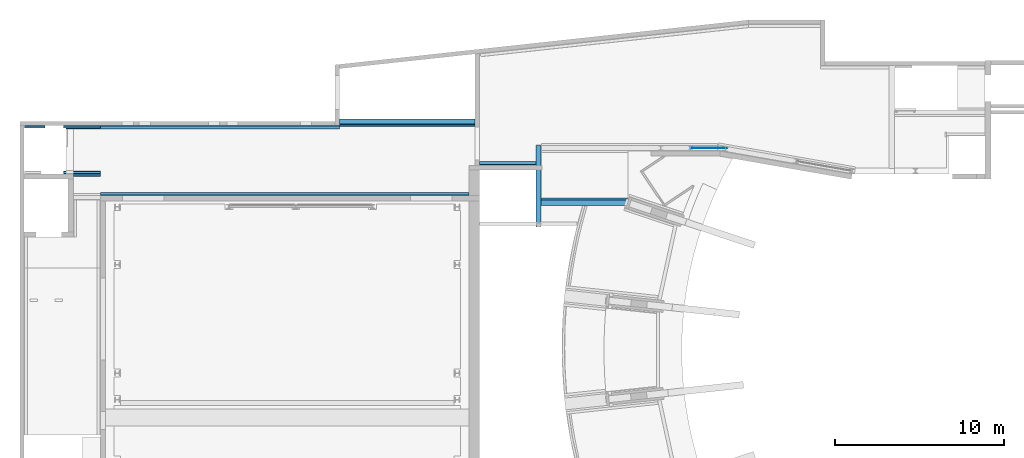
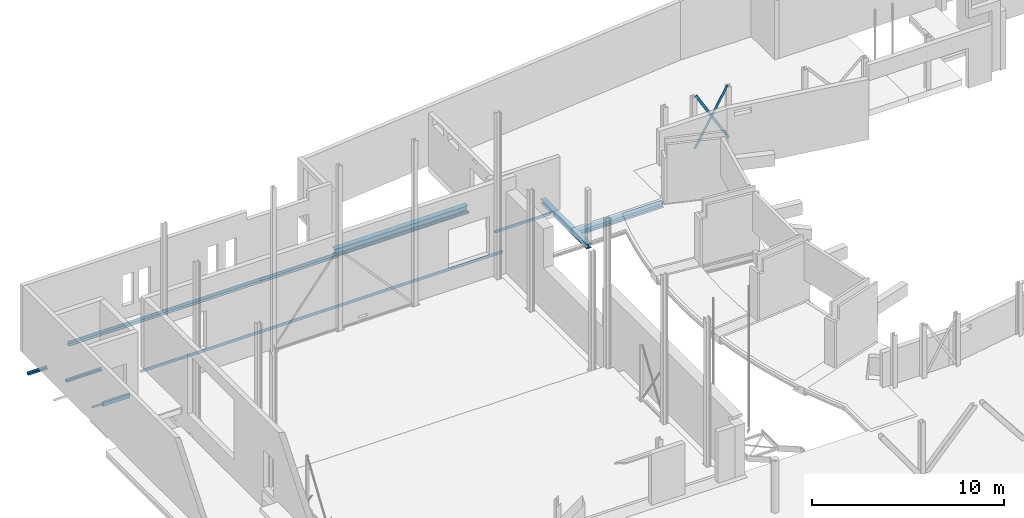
# One storey, part 18 of 37: 13 beams.
"""IFC2X3 building model written with IfcOpenShell, lengths in millimetres."""

from ifc_helpers import new_model, entity, si_unit, converted_unit, derived_unit, direction, frame, frame_2d, origin, place, context, subcontext, project, spatial, polyline, circle_curve, parameter, trimmed, segment, composite_curve, rectangle, outline, extrude, source, transform, mapped, material, material_list, type_object, type_shapes, element, save


model = new_model("IFC2X3")

# Units and contexts
model_context = context("Model", 3, precision=0.01, world=origin(), true_north=direction((6.12303176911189e-17, 1.0)))
body_context = subcontext(model_context, "Body", "Model", "MODEL_VIEW")
ifc_project = project(units=[si_unit("LENGTHUNIT", "METRE", prefix="MILLI"), si_unit("AREAUNIT", "SQUARE_METRE", prefix="MILLI"), si_unit("VOLUMEUNIT", "CUBIC_METRE"), converted_unit("PLANEANGLEUNIT", "DEGREE", entity("IfcRatioMeasure", 0.0174532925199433), si_unit("PLANEANGLEUNIT", "RADIAN"), dimensions=[0, 0, 0, 0, 0, 0, 0]), si_unit("MASSUNIT", "GRAM", prefix="KILO"), derived_unit("MASSDENSITYUNIT", [(si_unit("MASSUNIT", "GRAM", prefix="KILO"), 1), (si_unit("LENGTHUNIT", "METRE"), -3)]), derived_unit("MOMENTOFINERTIAUNIT", [(si_unit("LENGTHUNIT", "METRE"), 4)]), si_unit("TIMEUNIT", "SECOND"), si_unit("FREQUENCYUNIT", "HERTZ"), si_unit("THERMODYNAMICTEMPERATUREUNIT", "DEGREE_CELSIUS"), derived_unit("THERMALTRANSMITTANCEUNIT", [(si_unit("MASSUNIT", "GRAM", prefix="KILO"), 1), (si_unit("THERMODYNAMICTEMPERATUREUNIT", "KELVIN"), -1), (si_unit("TIMEUNIT", "SECOND"), -3)]), derived_unit("VOLUMETRICFLOWRATEUNIT", [(si_unit("LENGTHUNIT", "METRE"), 3), (si_unit("TIMEUNIT", "SECOND"), -1)]), si_unit("ELECTRICCURRENTUNIT", "AMPERE"), si_unit("ELECTRICVOLTAGEUNIT", "VOLT"), si_unit("POWERUNIT", "WATT"), si_unit("FORCEUNIT", "NEWTON", prefix="KILO"), si_unit("ILLUMINANCEUNIT", "LUX"), si_unit("LUMINOUSFLUXUNIT", "LUMEN"), si_unit("LUMINOUSINTENSITYUNIT", "CANDELA"), derived_unit("USERDEFINED", [(si_unit("MASSUNIT", "GRAM", prefix="KILO"), -1), (si_unit("LENGTHUNIT", "METRE"), -2), (si_unit("TIMEUNIT", "SECOND"), 3), (si_unit("LUMINOUSFLUXUNIT", "LUMEN"), 1)]), derived_unit("LINEARVELOCITYUNIT", [(si_unit("LENGTHUNIT", "METRE"), 1), (si_unit("TIMEUNIT", "SECOND"), -1)]), si_unit("PRESSUREUNIT", "PASCAL"), derived_unit("USERDEFINED", [(si_unit("LENGTHUNIT", "METRE"), -2), (si_unit("MASSUNIT", "GRAM", prefix="KILO"), 1), (si_unit("TIMEUNIT", "SECOND"), -2)]), derived_unit("LINEARFORCEUNIT", [(si_unit("MASSUNIT", "GRAM", prefix="KILO"), 1), (si_unit("LENGTHUNIT", "METRE"), 1), (si_unit("TIMEUNIT", "SECOND"), -2), (si_unit("LENGTHUNIT", "METRE"), -1)]), derived_unit("PLANARFORCEUNIT", [(si_unit("MASSUNIT", "GRAM", prefix="KILO"), 1), (si_unit("LENGTHUNIT", "METRE"), 1), (si_unit("TIMEUNIT", "SECOND"), -2), (si_unit("LENGTHUNIT", "METRE"), -2)])], contexts=[model_context])

# Site, building, storey
site_placement = place(None, origin())
site = spatial("IfcSite", under=ifc_project, at=site_placement, Name="Theater aan de Parade", CompositionType="ELEMENT")
building_placement = place(site_placement, origin())
building = spatial("IfcBuilding", under=site, at=building_placement, Name="Theater aan de Parade", CompositionType="ELEMENT")
storey_placement = place(building_placement, frame((0.0, 0.0, 5020.0)))
storey = spatial("IfcBuildingStorey", under=building, at=storey_placement, Name="01 eerste verdieping", CompositionType="ELEMENT", Elevation=5020.0)

# Beams
ifc_material_1 = material(Name="00_PBT_MAT_staal_S355")
beam_type_1 = type_object("IfcBeamType", Name="28_PBT_SF_staal_H-profiel (void):S355_HE300B", PredefinedType="NOTDEFINED")
beam_1_placement = place(storey_placement, frame((40963.8581275, 39725.0, 0.0), z_axis=(0.0, 0.0, 1.0), x_axis=(0.0, 1.0, 0.0)))
element("IfcBeam", 1, at=beam_1_placement, inside=storey, type_object=beam_type_1, material=ifc_material_1, Name="28_PBT_SF_staal_H-profiel (void):S355_HE300B", ObjectType="28_PBT_SF_staal_H-profiel (void):S355_HE300B", context=body_context, shape_type="SweptSolid", body=[
    extrude(outline(composite_curve([segment(polyline([(131.0, -150.0), (150.0, -150.0)]), True, "CONTINUOUS"), segment(polyline([(150.0, -150.0), (150.0, 150.0)]), True, "CONTINUOUS"), segment(polyline([(150.0, 150.0), (131.0, 150.0)]), True, "CONTINUOUS"), segment(polyline([(131.0, 150.0), (131.0, 32.5000000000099)]), True, "CONTINUOUS"), segment(trimmed(circle_curve(frame_2d((104.0, 32.5000000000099), x_axis=(1.0, 0.0)), 26.9999999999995), [parameter(270.0)], [parameter(0.0)], True, "PARAMETER"), False, "CONTINUOUS"), segment(polyline([(104.0, 5.50000000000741), (-104.0, 5.50000000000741)]), True, "CONTINUOUS"), segment(trimmed(circle_curve(frame_2d((-104.0, 32.5000000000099), x_axis=(0.0, -1.0)), 26.9999999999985), [parameter(269.999999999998)], [parameter(0.0)], True, "PARAMETER"), False, "CONTINUOUS"), segment(polyline([(-131.0, 32.5000000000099), (-131.0, 150.0)]), True, "CONTINUOUS"), segment(polyline([(-131.0, 150.0), (-150.0, 150.0)]), True, "CONTINUOUS"), segment(polyline([(-150.0, 150.0), (-150.0, -150.0)]), True, "CONTINUOUS"), segment(polyline([(-150.0, -150.0), (-131.0, -150.0)]), True, "CONTINUOUS"), segment(polyline([(-131.0, -150.0), (-131.0, -32.4999999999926)]), True, "CONTINUOUS"), segment(trimmed(circle_curve(frame_2d((-104.0, -32.4999999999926), x_axis=(-1.0, 0.0)), 26.9999999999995), [parameter(269.999999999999)], [parameter(0.0)], True, "PARAMETER"), False, "CONTINUOUS"), segment(polyline([(-104.0, -5.49999999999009), (104.0, -5.49999999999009)]), True, "CONTINUOUS"), segment(trimmed(circle_curve(frame_2d((104.0, -32.4999999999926), x_axis=(0.0, 1.0)), 26.9999999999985), [parameter(269.999999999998)], [parameter(0.0)], True, "PARAMETER"), False, "CONTINUOUS"), segment(polyline([(131.0, -32.4999999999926), (131.0, -150.0)]), True, "CONTINUOUS")], self_intersect=False)), frame((0.0, 0.0, -310.0), z_axis=(1.0, 0.0, 0.0), x_axis=(0.0, 0.0, -1.0)), (0.0, 0.0, 1.0), 4820.00000559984),
])
beam_type_2 = type_object("IfcBeamType", Name="28_PBT_SF_staal_L-profiel:S355_L150x150x15", PredefinedType="NOTDEFINED")
beam_2_placement = place(storey_placement, frame((10574.1125537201, 45680.4999999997, 0.0)))
element("IfcBeam", 2, at=beam_2_placement, inside=storey, type_object=beam_type_2, material=ifc_material_1, Name="28_PBT_SF_staal_L-profiel:S355_L150x150x15", ObjectType="28_PBT_SF_staal_L-profiel:S355_L150x150x15", context=body_context, shape_type="SweptSolid", body=[
    extrude(outline(composite_curve([segment(polyline([(49.6666666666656, -93.3333333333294), (56.6666666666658, -93.3333333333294)]), True, "CONTINUOUS"), segment(polyline([(56.6666666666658, -93.3333333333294), (56.6666666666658, 56.6666666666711)]), True, "CONTINUOUS"), segment(polyline([(56.6666666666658, 56.6666666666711), (-93.3333333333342, 56.6666666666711)]), True, "CONTINUOUS"), segment(polyline([(-93.3333333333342, 56.6666666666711), (-93.3333333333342, 49.6666666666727)]), True, "CONTINUOUS"), segment(trimmed(circle_curve(frame_2d((-85.3333333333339, 49.6666666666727), x_axis=(-1.0, 0.0)), 7.99999999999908), [parameter(0.0)], [parameter(90.0000000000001)], True, "PARAMETER"), True, "CONTINUOUS"), segment(polyline([(-85.3333333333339, 41.6666666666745), (25.6666666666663, 41.6666666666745)]), True, "CONTINUOUS"), segment(trimmed(circle_curve(frame_2d((25.6666666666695, 25.6666666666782), x_axis=(0.0, 1.0)), 15.9999999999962), [parameter(269.999999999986)], [parameter(0.0)], True, "PARAMETER"), False, "CONTINUOUS"), segment(polyline([(41.6666666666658, 25.6666666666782), (41.6666666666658, -85.3333333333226)]), True, "CONTINUOUS"), segment(trimmed(circle_curve(frame_2d((49.6666666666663, -85.3333333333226), x_axis=(-1.0, 0.0)), 7.99999999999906), [parameter(0.0)], [parameter(90.0000000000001)], True, "PARAMETER"), True, "CONTINUOUS")], self_intersect=False)), frame((0.0, -14.1666666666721, -1398.33333333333), z_axis=(1.0, 0.0, 0.0), x_axis=(0.0, 0.0, -1.0)), (0.0, 0.0, 1.0), 1205.21531551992),
])
beam_3_placement = place(storey_placement, frame((12879.3368776, 45680.4999999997, 0.0)))
element("IfcBeam", 3, at=beam_3_placement, inside=storey, type_object=beam_type_2, material=ifc_material_1, Name="28_PBT_SF_staal_L-profiel:S355_L150x150x15", ObjectType="28_PBT_SF_staal_L-profiel:S355_L150x150x15", context=body_context, shape_type="SweptSolid", body=[
    extrude(outline(composite_curve([segment(polyline([(49.6666666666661, -93.3333333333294), (56.666666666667, -93.3333333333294)]), True, "CONTINUOUS"), segment(polyline([(56.666666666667, -93.3333333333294), (56.666666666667, 56.6666666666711)]), True, "CONTINUOUS"), segment(polyline([(56.6666666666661, 56.6666666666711), (-93.3333333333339, 56.6666666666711)]), True, "CONTINUOUS"), segment(polyline([(-93.3333333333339, 56.6666666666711), (-93.3333333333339, 49.6666666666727)]), True, "CONTINUOUS"), segment(trimmed(circle_curve(frame_2d((-85.3333333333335, 49.6666666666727), x_axis=(-1.0, 0.0)), 7.99999999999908), [parameter(0.0)], [parameter(90.0000000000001)], True, "PARAMETER"), True, "CONTINUOUS"), segment(polyline([(-85.3333333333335, 41.6666666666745), (25.6666666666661, 41.6666666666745)]), True, "CONTINUOUS"), segment(trimmed(circle_curve(frame_2d((25.6666666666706, 25.6666666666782), x_axis=(0.0, 1.0)), 15.9999999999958), [parameter(269.999999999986)], [parameter(0.0)], True, "PARAMETER"), False, "CONTINUOUS"), segment(polyline([(41.6666666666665, 25.6666666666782), (41.6666666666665, -85.3333333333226)]), True, "CONTINUOUS"), segment(trimmed(circle_curve(frame_2d((49.6666666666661, -85.3333333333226), x_axis=(-1.0, 0.0)), 7.99999999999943), [parameter(0.0)], [parameter(90.0000000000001)], True, "PARAMETER"), True, "CONTINUOUS")], self_intersect=False)), frame((0.0, -14.1666666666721, -2653.33333333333), z_axis=(1.0, 0.0, 0.0), x_axis=(0.0, 0.0, -1.0)), (0.0, 0.0, 1.0), 2174.54308929),
])
beam_4_placement = place(storey_placement, frame((12879.3368776, 42912.5000000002, 0.0)))
element("IfcBeam", 4, at=beam_4_placement, inside=storey, type_object=beam_type_2, material=ifc_material_1, Name="28_PBT_SF_staal_L-profiel:S355_L150x150x15", ObjectType="28_PBT_SF_staal_L-profiel:S355_L150x150x15", context=body_context, shape_type="SweptSolid", body=[
    extrude(outline(composite_curve([segment(polyline([(-93.3333333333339, -56.6666666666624), (56.6666666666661, -56.6666666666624)]), True, "CONTINUOUS"), segment(polyline([(56.666666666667, -56.6666666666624), (56.666666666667, 93.3333333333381)]), True, "CONTINUOUS"), segment(polyline([(56.666666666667, 93.3333333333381), (49.6666666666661, 93.3333333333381)]), True, "CONTINUOUS"), segment(trimmed(circle_curve(frame_2d((49.6666666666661, 85.3333333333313), x_axis=(0.0, 1.0)), 7.99999999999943), [parameter(0.0)], [parameter(90.0000000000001)], True, "PARAMETER"), True, "CONTINUOUS"), segment(polyline([(41.6666666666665, 85.3333333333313), (41.6666666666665, -25.6666666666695)]), True, "CONTINUOUS"), segment(trimmed(circle_curve(frame_2d((25.6666666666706, -25.6666666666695), x_axis=(1.0, 0.0)), 15.9999999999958), [parameter(269.999999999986)], [parameter(0.0)], True, "PARAMETER"), False, "CONTINUOUS"), segment(polyline([(25.6666666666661, -41.6666666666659), (-85.3333333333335, -41.6666666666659)]), True, "CONTINUOUS"), segment(trimmed(circle_curve(frame_2d((-85.3333333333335, -49.666666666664), x_axis=(0.0, 1.0)), 7.99999999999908), [parameter(0.0)], [parameter(90.0000000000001)], True, "PARAMETER"), True, "CONTINUOUS"), segment(polyline([(-93.3333333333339, -49.666666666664), (-93.3333333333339, -56.6666666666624)]), True, "CONTINUOUS")], self_intersect=False)), frame((0.0, 14.1666666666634, -2653.33333333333), z_axis=(1.0, 0.0, 0.0), x_axis=(0.0, 0.0, -1.0)), (0.0, 0.0, 1.0), 2174.54308929),
])
beam_type_3 = type_object("IfcBeamType", Name="28_PBT_SF_staal_L-profiel:S355_L200x200x20", PredefinedType="NOTDEFINED")
beam_5_placement = place(storey_placement, frame((15053.8570025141, 41630.1083270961, 0.0)))
element("IfcBeam", 5, at=beam_5_placement, inside=storey, type_object=beam_type_3, material=ifc_material_1, Name="28_PBT_SF_staal_L-profiel:S355_L200x200x20", ObjectType="28_PBT_SF_staal_L-profiel:S355_L200x200x20", context=body_context, shape_type="SweptSolid", body=[
    extrude(outline(composite_curve([segment(polyline([(-124.444444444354, -75.5555555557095), (75.5555555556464, -75.5555555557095)]), True, "CONTINUOUS"), segment(polyline([(75.5555555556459, -75.555555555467), (75.5555555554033, 124.444444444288)]), True, "CONTINUOUS"), segment(polyline([(75.5555555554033, 124.444444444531), (64.5555555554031, 124.444444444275)]), True, "CONTINUOUS"), segment(trimmed(circle_curve(frame_2d((64.5555555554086, 115.44444444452), x_axis=(0.0, 1.0)), 8.99999999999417), [parameter(0.0)], [parameter(90.000000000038)], True, "PARAMETER"), True, "CONTINUOUS"), segment(polyline([(55.5555555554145, 115.444444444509), (55.5555555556, -37.5555555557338)]), True, "CONTINUOUS"), segment(trimmed(circle_curve(frame_2d((37.5555555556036, -37.555555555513), x_axis=(1.0, 0.0)), 17.9999999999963), [parameter(269.999999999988)], [parameter(0.0)], True, "PARAMETER"), False, "CONTINUOUS"), segment(polyline([(37.5555555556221, -55.5555555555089), (-115.444444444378, -55.5555555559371)]), True, "CONTINUOUS"), segment(trimmed(circle_curve(frame_2d((-115.444444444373, -64.5555555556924), x_axis=(0.0, 1.0)), 8.99999999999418), [parameter(0.0)], [parameter(90.000000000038)], True, "PARAMETER"), True, "CONTINUOUS"), segment(polyline([(-124.444444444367, -64.5555555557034), (-124.444444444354, -75.5555555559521)]), True, "CONTINUOUS")], self_intersect=False)), frame((0.0, 18.7555555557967, -349.444444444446), z_axis=(1.0, 0.0, 0.0), x_axis=(0.0, 0.0, -1.0)), (0.0, 0.0, 1.0), 21800.0011275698),
])
beam_6_placement = place(storey_placement, frame((13009.3291773, 45666.1999999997, 0.0)))
element("IfcBeam", 6, at=beam_6_placement, inside=storey, type_object=beam_type_3, material=ifc_material_1, Name="28_PBT_SF_staal_L-profiel:S355_L200x200x20", ObjectType="28_PBT_SF_staal_L-profiel:S355_L200x200x20", context=body_context, shape_type="SweptSolid", body=[
    extrude(outline(composite_curve([segment(polyline([(64.5555555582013, -124.444444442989), (75.5555555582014, -124.444444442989)]), True, "CONTINUOUS"), segment(polyline([(75.5555555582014, -124.444444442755), (75.5555555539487, 75.5555555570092)]), True, "CONTINUOUS"), segment(polyline([(75.5555555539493, 75.5555555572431), (-124.444444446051, 75.5555555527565)]), True, "CONTINUOUS"), segment(polyline([(-124.444444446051, 75.5555555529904), (-124.444444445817, 64.5555555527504)]), True, "CONTINUOUS"), segment(trimmed(circle_curve(frame_2d((-115.444444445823, 64.5555555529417), x_axis=(-1.0, 0.0)), 8.99999999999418), [parameter(0.0)], [parameter(90.000000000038)], True, "PARAMETER"), True, "CONTINUOUS"), segment(polyline([(-115.444444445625, 55.5555555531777), (37.5555555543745, 55.5555555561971)]), True, "CONTINUOUS"), segment(trimmed(circle_curve(frame_2d((37.5555555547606, 37.5555555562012), x_axis=(0.0, 1.0)), 17.9999999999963), [parameter(269.999999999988)], [parameter(0.0)], True, "PARAMETER"), False, "CONTINUOUS"), segment(polyline([(55.555555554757, 37.5555555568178), (55.5555555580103, -115.444444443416)]), True, "CONTINUOUS"), segment(trimmed(circle_curve(frame_2d((64.5555555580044, -115.444444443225), x_axis=(-1.0, 0.0)), 8.99999999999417), [parameter(0.0)], [parameter(90.000000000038)], True, "PARAMETER"), True, "CONTINUOUS")], self_intersect=False)), frame((0.0, -18.7555555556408, -349.444444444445), z_axis=(1.0, 0.0, 0.0), x_axis=(0.0, 0.0, -1.0)), (0.0, 0.0, 1.0), 16179.568389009),
])
beam_7_placement = place(storey_placement, frame((40793.8581275, 43456.8000000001, 0.0), z_axis=(0.0, 0.0, 1.0), x_axis=(-1.0, 0.0, 0.0)))
element("IfcBeam", 7, at=beam_7_placement, inside=storey, type_object=beam_type_3, material=ifc_material_1, Name="28_PBT_SF_staal_L-profiel:S355_L200x200x20", ObjectType="28_PBT_SF_staal_L-profiel:S355_L200x200x20", context=body_context, shape_type="SweptSolid", body=[
    extrude(outline(composite_curve([segment(polyline([(64.5555555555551, -124.444444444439), (75.5555555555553, -124.444444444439)]), True, "CONTINUOUS"), segment(polyline([(75.5555555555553, -124.444444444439), (75.5555555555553, 75.5555555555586)]), True, "CONTINUOUS"), segment(polyline([(75.5555555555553, 75.5555555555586), (-124.444444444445, 75.5555555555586)]), True, "CONTINUOUS"), segment(polyline([(-124.444444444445, 75.5555555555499), (-124.444444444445, 64.5555555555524)]), True, "CONTINUOUS"), segment(trimmed(circle_curve(frame_2d((-115.44444444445, 64.5555555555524), x_axis=(-1.0, 0.0)), 8.99999999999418), [parameter(0.0)], [parameter(90.000000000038)], True, "PARAMETER"), True, "CONTINUOUS"), segment(polyline([(-115.444444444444, 55.5555555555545), (37.5555555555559, 55.5555555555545)]), True, "CONTINUOUS"), segment(trimmed(circle_curve(frame_2d((37.5555555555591, 37.5555555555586), x_axis=(0.0, 1.0)), 17.9999999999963), [parameter(269.999999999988)], [parameter(0.0)], True, "PARAMETER"), False, "CONTINUOUS"), segment(polyline([(55.5555555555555, 37.5555555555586), (55.5555555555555, -115.444444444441)]), True, "CONTINUOUS"), segment(trimmed(circle_curve(frame_2d((64.5555555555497, -115.444444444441), x_axis=(-1.0, 0.0)), 8.99999999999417), [parameter(0.0)], [parameter(90.000000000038)], True, "PARAMETER"), True, "CONTINUOUS")], self_intersect=False)), frame((0.0, -18.7555555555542, -409.444444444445), z_axis=(1.0, 0.0, 0.0), x_axis=(0.0, 0.0, -1.0)), (0.0, 0.0, 1.0), 3339.99999741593),
])
ifc_material_2 = material(Name="00_PBT_MAT_staal_S235")
beam_type_4 = type_object("IfcBeamType", Name="28_PBT_SF_staal_koker:S235_K80x120x6.3", PredefinedType="NOTDEFINED")
beam_8_placement = place(storey_placement, frame((29188.897566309, 45675.0, 0.0)))
element("IfcBeam", 8, at=beam_8_placement, inside=storey, type_object=beam_type_4, material=ifc_material_2, Name="28_PBT_SF_staal_koker:S235_K80x120x6.3", ObjectType="28_PBT_SF_staal_koker:S235_K80x120x6.3", context=body_context, shape_type="SweptSolid", body=[
    extrude(outline(composite_curve([segment(polyline([(-30.5499999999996, -60.0), (30.5500000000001, -60.0)]), True, "CONTINUOUS"), segment(trimmed(circle_curve(frame_2d((30.5500000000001, -50.5500000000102), x_axis=(0.0, 1.0)), 9.45), [parameter(180.0)], [parameter(270.0)], True, "PARAMETER"), True, "CONTINUOUS"), segment(polyline([(40.0, -50.5500000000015), (40.0, 50.5500000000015)]), True, "CONTINUOUS"), segment(trimmed(circle_curve(frame_2d((30.5500000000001, 50.5499999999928), x_axis=(0.0, 1.0)), 9.45), [parameter(270.0)], [parameter(360.0)], True, "PARAMETER"), True, "CONTINUOUS"), segment(polyline([(30.5500000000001, 60.0), (-30.5499999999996, 60.0)]), True, "CONTINUOUS"), segment(trimmed(circle_curve(frame_2d((-30.5499999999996, 50.5499999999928), x_axis=(0.0, 1.0)), 9.45), [parameter(0.0)], [parameter(90.0000000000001)], True, "PARAMETER"), True, "CONTINUOUS"), segment(polyline([(-40.0, 50.5500000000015), (-40.0, -50.5500000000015)]), True, "CONTINUOUS"), segment(trimmed(circle_curve(frame_2d((-30.5499999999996, -50.5500000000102), x_axis=(0.0, 1.0)), 9.45), [parameter(90.0)], [parameter(180.0)], True, "PARAMETER"), True, "CONTINUOUS")], self_intersect=False), holes=[composite_curve([segment(polyline([(33.7000000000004, 47.3999999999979), (33.7000000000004, -47.3999999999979)]), True, "CONTINUOUS"), segment(trimmed(circle_curve(frame_2d((27.4000000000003, -47.4000000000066), x_axis=(0.0, 1.0)), 6.3), [parameter(180.0)], [parameter(270.0)], True, "PARAMETER"), False, "CONTINUOUS"), segment(polyline([(27.4000000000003, -53.6999999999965), (-27.3999999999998, -53.6999999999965)]), True, "CONTINUOUS"), segment(trimmed(circle_curve(frame_2d((-27.3999999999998, -47.4000000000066), x_axis=(0.0, 1.0)), 6.3), [parameter(90.0)], [parameter(180.0)], True, "PARAMETER"), False, "CONTINUOUS"), segment(polyline([(-33.6999999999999, -47.3999999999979), (-33.6999999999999, 47.3999999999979)]), True, "CONTINUOUS"), segment(trimmed(circle_curve(frame_2d((-27.3999999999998, 47.3999999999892), x_axis=(0.0, 1.0)), 6.3), [parameter(4.07110999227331e-13)], [parameter(90.0000000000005)], True, "PARAMETER"), False, "CONTINUOUS"), segment(polyline([(-27.3999999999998, 53.6999999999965), (27.4000000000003, 53.6999999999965)]), True, "CONTINUOUS"), segment(trimmed(circle_curve(frame_2d((27.4000000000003, 47.3999999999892), x_axis=(0.0, 1.0)), 6.3), [parameter(270.0)], [parameter(360.0)], True, "PARAMETER"), False, "CONTINUOUS")], self_intersect=False)]), frame((0.0, 60.0, -445.0), z_axis=(1.0, 0.0, 0.0), x_axis=(0.0, 0.0, 1.0)), (0.0, 0.0, 1.0), 8014.96056377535),
])
ifc_material_3 = material(Name="00_PBT_MAT_staal")
beam_type_5 = type_object("IfcBeamType", Name="28_PBT_SF_staal_strip:strip 10x150", PredefinedType="NOTDEFINED")
beam_9_placement = place(storey_placement, frame((49939.9175333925, 44395.0, -236.146651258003), z_axis=(0.862038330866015, 0.0, -0.50684308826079), x_axis=(0.50684308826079, 0.0, 0.862038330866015)))
element("IfcBeam", 9, at=beam_9_placement, inside=storey, type_object=beam_type_5, material=ifc_material_3, Name="28_PBT_SF_staal_strip:strip 10x150", ObjectType="28_PBT_SF_staal_strip:strip 10x150", context=body_context, shape_type="SweptSolid", body=[
    extrude(rectangle(XDim=150.000000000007, YDim=9.99999999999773, at=frame_2d((-1.35003119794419e-13, 0.0), x_axis=(1.0, 0.0))), frame((147.581027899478, 0.0, 0.0), z_axis=(1.0, 0.0, 0.0), x_axis=(0.0, 0.0, -1.0)), (0.0, 0.0, 1.0), 3902.19871328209),
])
beam_10_placement = place(storey_placement, frame((52131.5537725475, 44395.0, -236.146651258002), z_axis=(0.862038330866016, 0.0, 0.506843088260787), x_axis=(-0.506843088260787, 0.0, 0.862038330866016)))
element("IfcBeam", 10, at=beam_10_placement, inside=storey, type_object=beam_type_5, material=ifc_material_3, Name="28_PBT_SF_staal_strip:strip 10x150", ObjectType="28_PBT_SF_staal_strip:strip 10x150", context=body_context, shape_type="SweptSolid", body=[
    extrude(rectangle(XDim=149.999999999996, YDim=9.99999999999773, at=frame_2d((4.9666937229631e-12, 0.0), x_axis=(1.0, 0.0))), frame((147.58102789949, 0.0, 0.0), z_axis=(1.0, 0.0, 0.0), x_axis=(0.0, 0.0, -1.0)), (0.0, 0.0, 1.0), 3902.19871328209),
])
ifc_material_4 = material(Name="00_PBT_MAT_Lucht")
ifc_material_list_1 = material_list([ifc_material_4, ifc_material_1])
beam_type_6 = type_object("IfcBeamType", Name="28_PBT_SF_staal_H-profiel_met_ondergelaste_strip (void):S355_HE400B + ondergelaste strip", PredefinedType="BEAM", material=ifc_material_list_1)
shared_shape_1 = source(origin(), body_context, "Body", "SweptSolid", [
    extrude(outline(composite_curve([segment(polyline([(176.0, -150.0), (200.0, -150.0)]), True, "CONTINUOUS"), segment(polyline([(200.0, -150.0), (200.0, 150.0)]), True, "CONTINUOUS"), segment(polyline([(200.0, 150.0), (176.0, 150.0)]), True, "CONTINUOUS"), segment(polyline([(176.0, 150.0), (176.0, 33.7499999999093)]), True, "CONTINUOUS"), segment(trimmed(circle_curve(frame_2d((149.0, 33.7499999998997), x_axis=(1.0, 0.0)), 26.9999999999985), [parameter(269.999999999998)], [parameter(0.0)], True, "PARAMETER"), False, "CONTINUOUS"), segment(polyline([(149.0, 6.74999999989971), (-149.0, 6.75000000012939)]), True, "CONTINUOUS"), segment(trimmed(circle_curve(frame_2d((-149.0, 33.7500000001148), x_axis=(0.0, -1.0)), 27.0000000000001), [parameter(270.0)], [parameter(0.0)], True, "PARAMETER"), False, "CONTINUOUS"), segment(polyline([(-176.0, 33.7500000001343), (-176.0, 150.0)]), True, "CONTINUOUS"), segment(polyline([(-176.0, 150.0), (-200.0, 150.0)]), True, "CONTINUOUS"), segment(polyline([(-200.0, 150.0), (-200.0, -150.0)]), True, "CONTINUOUS"), segment(polyline([(-200.0, -150.0), (-176.0, -150.0)]), True, "CONTINUOUS"), segment(polyline([(-176.0, -150.0), (-176.0, -33.7499999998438)]), True, "CONTINUOUS"), segment(trimmed(circle_curve(frame_2d((-149.0, -33.7499999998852), x_axis=(-1.0, 0.0)), 27.0000000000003), [parameter(270.0)], [parameter(0.0)], True, "PARAMETER"), False, "CONTINUOUS"), segment(polyline([(-149.0, -6.74999999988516), (149.0, -6.75000000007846)]), True, "CONTINUOUS"), segment(trimmed(circle_curve(frame_2d((149.0, -33.7500000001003), x_axis=(0.0, 1.0)), 26.9999999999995), [parameter(270.0)], [parameter(0.0)], True, "PARAMETER"), False, "CONTINUOUS"), segment(polyline([(176.0, -33.7500000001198), (176.0, -150.0)]), True, "CONTINUOUS")], self_intersect=False)), frame((29188.8975663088, 45950.0, 4735.0), z_axis=(1.0, 0.0, 0.0), x_axis=(0.0, 0.0, -1.0)), (0.0, 0.0, 1.0), 8014.96056377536),
    extrude(rectangle(XDim=14.9999999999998, YDim=420.0, at=frame_2d((-2.70450328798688e-13, 2.16573425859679e-11), x_axis=(1.0, 0.0))), frame((29189.8975663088, 45885.0, 4527.5), z_axis=(1.0, 0.0, 0.0), x_axis=(0.0, 0.0, -1.0)), (0.0, 0.0, 1.0), 8012.96056377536),
])
type_shapes(beam_type_6, [shared_shape_1])
beam_11_placement = place(storey_placement, frame((0.0, 0.0, -5020.0)))
element("IfcBeam", 11, at=beam_11_placement, inside=storey, type_object=beam_type_6, material=ifc_material_1, Name="28_PBT_SF_staal_H-profiel_met_ondergelaste_strip (void):S355_HE400B + ondergelaste strip", ObjectType="28_PBT_SF_staal_H-profiel_met_ondergelaste_strip (void):S355_HE400B + ondergelaste strip", context=body_context, shape_type="MappedRepresentation", body=[
    mapped(shared_shape_1, transform((0.0, 0.0, 0.0), scale=1.0)),
])
ifc_material_list_2 = material_list([ifc_material_1, ifc_material_4])
beam_type_7 = type_object("IfcBeamType", Name="28_PBT_SF_staal_H-profiel_met_ondergelaste_strip (void):S355_HE300B + ondergelaste strip d=12", PredefinedType="BEAM", material=ifc_material_list_2)
shared_shape_2 = source(origin(), body_context, "Body", "SweptSolid", [
    extrude(outline(composite_curve([segment(polyline([(131.0, -150.0), (150.0, -150.0)]), True, "CONTINUOUS"), segment(polyline([(150.0, -150.0), (150.0, 150.0)]), True, "CONTINUOUS"), segment(polyline([(150.0, 150.0), (131.0, 150.0)]), True, "CONTINUOUS"), segment(polyline([(131.0, 150.0), (131.0, 32.5000000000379)]), True, "CONTINUOUS"), segment(trimmed(circle_curve(frame_2d((104.0, 32.5000000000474), x_axis=(1.0, 0.0)), 26.9999999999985), [parameter(269.999999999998)], [parameter(0.0)], True, "PARAMETER"), False, "CONTINUOUS"), segment(polyline([(104.0, 5.50000000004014), (-104.0, 5.49999999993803)]), True, "CONTINUOUS"), segment(trimmed(circle_curve(frame_2d((-104.0, 32.4999999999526), x_axis=(0.0, -1.0)), 26.9999999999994), [parameter(269.999999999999)], [parameter(0.0)], True, "PARAMETER"), False, "CONTINUOUS"), segment(polyline([(-131.0, 32.4999999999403), (-131.0, 150.0)]), True, "CONTINUOUS"), segment(polyline([(-131.0, 150.0), (-150.0, 150.0)]), True, "CONTINUOUS"), segment(polyline([(-150.0, 150.0), (-150.0, -150.0)]), True, "CONTINUOUS"), segment(polyline([(-150.0, -150.0), (-131.0, -150.0)]), True, "CONTINUOUS"), segment(polyline([(-131.0, -150.0), (-131.0, -32.5000000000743)]), True, "CONTINUOUS"), segment(trimmed(circle_curve(frame_2d((-104.0, -32.5000000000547), x_axis=(-1.0, 0.0)), 26.9999999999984), [parameter(269.999999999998)], [parameter(0.0)], True, "PARAMETER"), False, "CONTINUOUS"), segment(polyline([(-104.0, -5.50000000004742), (104.0, -5.49999999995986)]), True, "CONTINUOUS"), segment(trimmed(circle_curve(frame_2d((104.0, -32.4999999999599), x_axis=(0.0, 1.0)), 26.9999999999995), [parameter(270.0)], [parameter(0.0)], True, "PARAMETER"), False, "CONTINUOUS"), segment(polyline([(131.0, -32.4999999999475), (131.0, -150.0)]), True, "CONTINUOUS")], self_intersect=False)), frame((46225.0, 41160.0, 4705.0), z_axis=(-1.0, 0.0, 0.0), x_axis=(0.0, 0.0, -1.0)), (0.0, 0.0, 1.0), 5111.14187250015),
    extrude(rectangle(XDim=11.9999999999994, YDim=420.0, at=frame_2d((-2.70894418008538e-13, -4.32009983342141e-12), x_axis=(1.0, 0.0))), frame((46224.0, 41225.0, 4549.0), z_axis=(-1.0, 0.0, 0.0), x_axis=(0.0, 0.0, -1.0)), (0.0, 0.0, 1.0), 5109.14187250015),
])
type_shapes(beam_type_7, [shared_shape_2])
beam_12_placement = place(storey_placement, frame((0.0, 0.0, -5020.0)))
element("IfcBeam", 12, at=beam_12_placement, inside=storey, type_object=beam_type_7, material=ifc_material_1, Name="28_PBT_SF_staal_H-profiel_met_ondergelaste_strip (void):S355_HE300B + ondergelaste strip d=12", ObjectType="28_PBT_SF_staal_H-profiel_met_ondergelaste_strip (void):S355_HE300B + ondergelaste strip d=12", context=body_context, shape_type="MappedRepresentation", body=[
    mapped(shared_shape_2, transform((0.0, 0.0, 0.0), scale=1.0)),
])
beam_type_8 = type_object("IfcBeamType", Name="28_PBT_SF_staal_koker:S355_K250x150x10", PredefinedType="NOTDEFINED")
beam_13_placement = place(storey_placement, frame((13454.8570025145, 42795.0, 0.0)))
element("IfcBeam", 13, at=beam_13_placement, inside=storey, type_object=beam_type_8, material=ifc_material_1, Name="28_PBT_SF_staal_koker:S355_K250x150x10", ObjectType="28_PBT_SF_staal_koker:S355_K250x150x10", context=body_context, shape_type="SweptSolid", body=[
    extrude(outline(composite_curve([segment(trimmed(circle_curve(frame_2d((-60.0, -110.0), x_axis=(1.0, 0.0)), 15.0), [parameter(180.0)], [parameter(270.0)], True, "PARAMETER"), True, "CONTINUOUS"), segment(polyline([(-60.0, -125.0), (60.0, -125.0)]), True, "CONTINUOUS"), segment(trimmed(circle_curve(frame_2d((60.0, -110.0), x_axis=(1.0, 0.0)), 15.0), [parameter(270.0)], [parameter(0.0)], True, "PARAMETER"), True, "CONTINUOUS"), segment(polyline([(75.0, -110.0), (75.0, 110.0)]), True, "CONTINUOUS"), segment(trimmed(circle_curve(frame_2d((60.0, 110.0), x_axis=(1.0, 0.0)), 15.0), [parameter(3.05333249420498e-13)], [parameter(90.0000000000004)], True, "PARAMETER"), True, "CONTINUOUS"), segment(polyline([(60.0, 125.0), (-60.0, 125.0)]), True, "CONTINUOUS"), segment(trimmed(circle_curve(frame_2d((-60.0, 110.0), x_axis=(1.0, 0.0)), 15.0), [parameter(90.0)], [parameter(180.0)], True, "PARAMETER"), True, "CONTINUOUS"), segment(polyline([(-75.0, 110.0), (-75.0, -110.0)]), True, "CONTINUOUS")], self_intersect=False), holes=[composite_curve([segment(trimmed(circle_curve(frame_2d((55.0, 105.0), x_axis=(1.0, 0.0)), 10.0), [parameter(360.0)], [parameter(90.0000000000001)], True, "PARAMETER"), False, "CONTINUOUS"), segment(polyline([(65.0, 105.0), (65.0, -105.0)]), True, "CONTINUOUS"), segment(trimmed(circle_curve(frame_2d((55.0, -105.0), x_axis=(1.0, 0.0)), 10.0), [parameter(269.999999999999)], [parameter(360.0)], True, "PARAMETER"), False, "CONTINUOUS"), segment(polyline([(55.0, -115.0), (-55.0, -115.0)]), True, "CONTINUOUS"), segment(trimmed(circle_curve(frame_2d((-55.0, -105.0), x_axis=(1.0, 0.0)), 10.0), [parameter(180.0)], [parameter(270.0)], True, "PARAMETER"), False, "CONTINUOUS"), segment(polyline([(-65.0, -105.0), (-65.0, 105.0)]), True, "CONTINUOUS"), segment(trimmed(circle_curve(frame_2d((-55.0, 105.0), x_axis=(1.0, 0.0)), 10.0), [parameter(89.9999999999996)], [parameter(180.0)], True, "PARAMETER"), False, "CONTINUOUS"), segment(polyline([(-55.0, 115.0), (55.0, 115.0)]), True, "CONTINUOUS")], self_intersect=False)]), frame((0.0, 0.0, -2585.0), z_axis=(1.0, 0.0, 0.0), x_axis=(0.0, 1.0, 0.0)), (0.0, 0.0, 1.0), 1598.99999999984),
])

save(model, "model.ifc")
